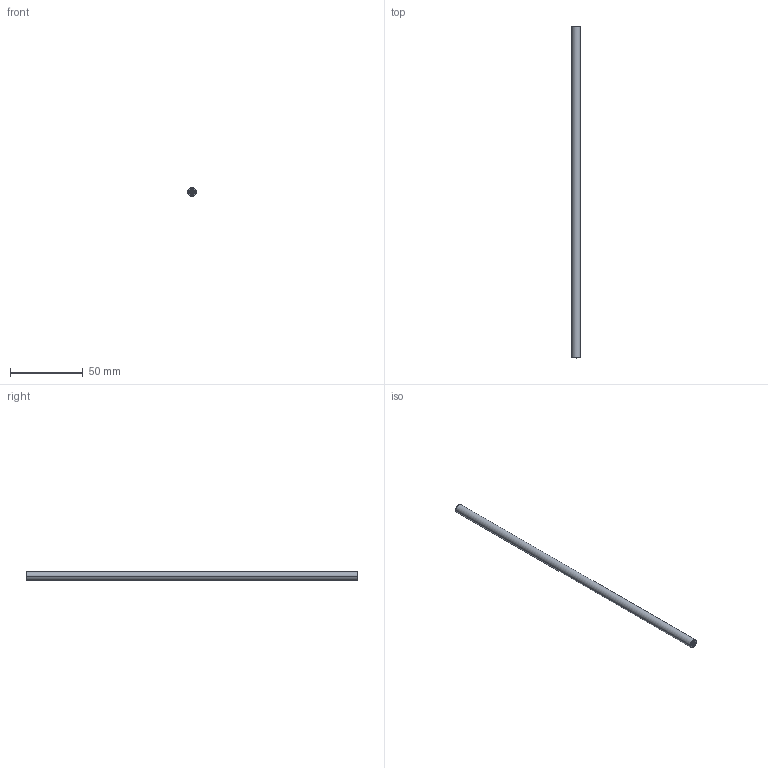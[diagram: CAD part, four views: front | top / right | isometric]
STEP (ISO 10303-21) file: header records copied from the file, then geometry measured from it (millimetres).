
FILE_DESCRIPTION((''),'2;1');
FILE_NAME('PCM-S_228','2021-04-19T',('Administrator'),(''),'CREO PARAMETRIC BY PTC INC, 2015290','CREO PARAMETRIC BY PTC INC, 2015290','');
FILE_SCHEMA(('CONFIG_CONTROL_DESIGN'));
Length unit declared in the file: millimetre
Products named in the file (1): PCM-S_228
Bounding box: 6 x 228 x 6 mm (x, y, z)
Volume: 6354 mm3; surface area: 4558.5 mm2
Topology: 1 solids, 1 shells, 93 faces, 253 edges, 160 vertices
Faces by surface type: cylinder 55, bspline 24, cone 12, plane 2
Entity records: 6495 total; most frequent: CARTESIAN_POINT 4474, ORIENTED_EDGE 498, DIRECTION 266, EDGE_CURVE 249, VERTEX_POINT 160, B_SPLINE_CURVE_WITH_KNOTS 141, EDGE_LOOP 95, FACE_OUTER_BOUND 93
